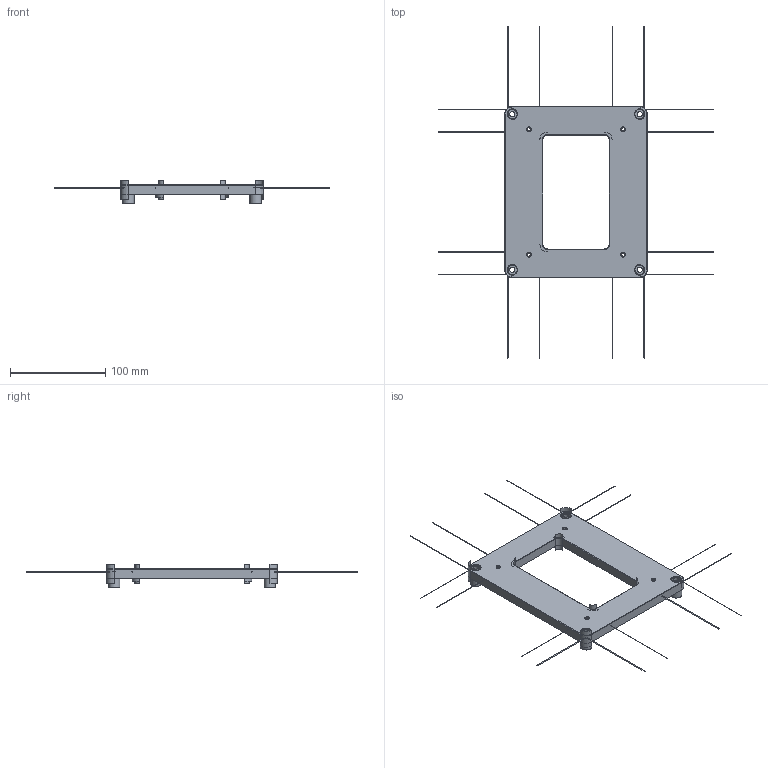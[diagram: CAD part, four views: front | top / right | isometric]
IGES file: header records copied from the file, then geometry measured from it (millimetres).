
Start section: Cimatron Iges convertor
Global section: file name: G:\k-box\cimatron\distenzplatten_neu\distanzplatte_gr4.igs; native system: prt/Cimatron V13.10; preprocessor: Cimatron IGES (V5.3) Convertor V5.0.6.0; author: NONE; organization: NONE; date: 060911.113638; units: millimetre
Bounding box: 289.43 x 349.43 x 25.04 mm (x, y, z)
Surface area: 65412.8 mm2 (no closed solid volume)
Topology: 0 solids, 0 shells, 176 faces, 757 edges, 712 vertices
Faces by surface type: bspline 176
